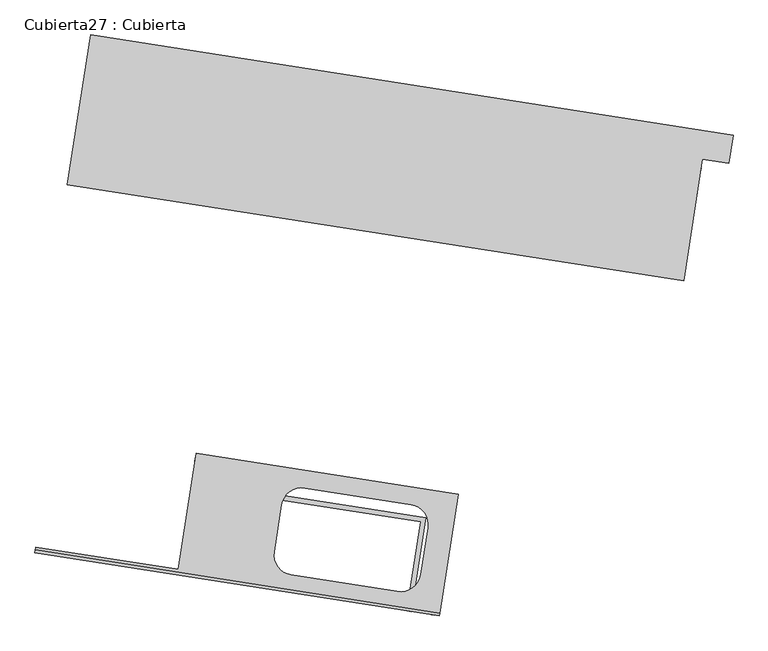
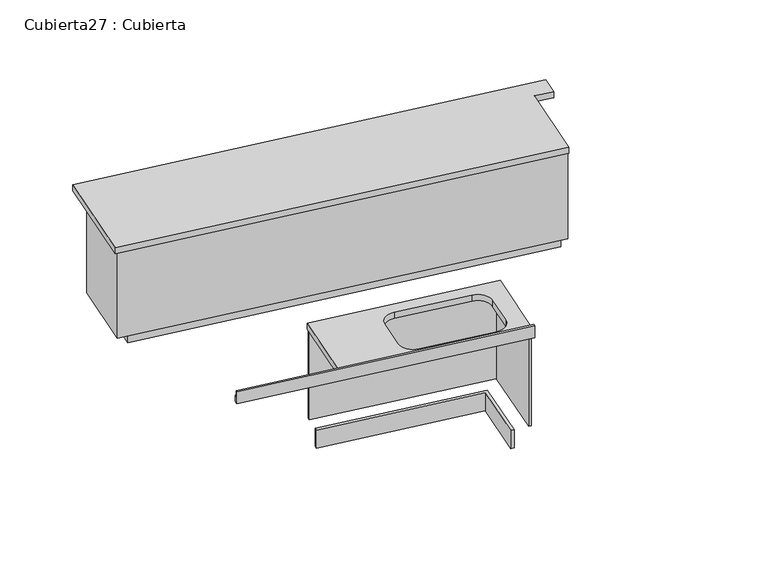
"""IFC4 building model written with IfcOpenShell, lengths in millimetres: furniture geometry, Cubierta27 : Cubierta."""

import ifcopenshell
import ifcopenshell.guid

model = None  # the IFC model being written
_history = None  # IfcOwnerHistory: only IFC2X3 demands one
_inside = {}  # id of a spatial element -> (the spatial element, [elements in it])
_under = {}  # id of a project, library or spatial element -> (it, [spatial elements below it])
_declared = {}  # id of a project -> (the project, [libraries it declares])
_typed = {}  # id of a type object -> (the type object, [elements of that type])
_made_of = {}  # id of a material, layer set ... -> (it, [elements and type objects made of it])


def new_model(schema):
    """Start an empty IFC model of exactly this schema.

    Asked for "IFC4X3", IfcOpenShell would pick the latest addendum, in which some entities
    have other attributes; the version numbers below select the first issue.
    IFC2X3 requires an IfcOwnerHistory on every rooted entity: one is made here for all.
    """
    global model, _history
    if schema == "IFC4X3":
        model = ifcopenshell.file(schema_version=(4, 3, 0, 0))
    else:
        model = ifcopenshell.file(schema=schema)
    _inside.clear()
    _under.clear()
    _declared.clear()
    _typed.clear()
    _made_of.clear()
    _history = None
    if model.schema == "IFC2X3":
        org = make("IfcOrganization", Name="unknown")
        user = make(
            "IfcPersonAndOrganization",
            ThePerson=make("IfcPerson", FamilyName="unknown"),
            TheOrganization=org,
        )
        app = make(
            "IfcApplication",
            ApplicationDeveloper=org,
            Version="unknown",
            ApplicationFullName="unknown",
            ApplicationIdentifier="unknown",
        )
        _history = make(
            "IfcOwnerHistory",
            OwningUser=user,
            OwningApplication=app,
            ChangeAction="ADDED",
            CreationDate=0,
        )
    return model


def make(cls, **values):
    """One entity of the class cls with the attributes given. An attribute that is None is left unset."""
    return model.create_entity(
        cls, **{name: value for name, value in values.items() if value is not None}
    )


def rooted(cls, **values):
    """An entity with a GlobalId (a new one), such as an element, a storey or a relation."""
    return make(cls, GlobalId=ifcopenshell.guid.new(), OwnerHistory=_history, **values)


def si_unit(unit_type, name, prefix=None):
    """IfcSIUnit, for example si_unit("LENGTHUNIT", "METRE", prefix="MILLI")."""
    return make("IfcSIUnit", UnitType=unit_type, Prefix=prefix, Name=name)


def assignment(units):
    """IfcUnitAssignment: the units of a project."""
    return None if units is None else make("IfcUnitAssignment", Units=units)


def point(xyz):
    """IfcCartesianPoint."""
    return None if xyz is None else make("IfcCartesianPoint", Coordinates=xyz)


def direction(xyz):
    """IfcDirection."""
    return None if xyz is None else make("IfcDirection", DirectionRatios=xyz)


def frame(location, z_axis=None, x_axis=None):
    """IfcAxis2Placement3D, a coordinate frame: its origin and axes. An axis left out is left unset."""
    return make(
        "IfcAxis2Placement3D",
        Location=point(location),
        Axis=direction(z_axis),
        RefDirection=direction(x_axis),
    )


def origin():
    """The frame at (0, 0, 0) with its axes left unset."""
    return frame((0.0, 0.0, 0.0))


def place(relative_to, where):
    """IfcLocalPlacement: puts the frame where relative to a parent placement (None: the world)."""
    return make(
        "IfcLocalPlacement", PlacementRelTo=relative_to, RelativePlacement=where
    )


def context(
    kind, dimensions, precision=None, world=None, true_north=None, identifier=None
):
    """IfcGeometricRepresentationContext, for example the 3D "Model" context."""
    return make(
        "IfcGeometricRepresentationContext",
        ContextIdentifier=identifier,
        ContextType=kind,
        CoordinateSpaceDimension=dimensions,
        Precision=precision,
        WorldCoordinateSystem=world,
        TrueNorth=true_north,
    )


def project(units=None, contexts=None):
    """IfcProject with its units and contexts."""
    return rooted(
        "IfcProject",
        Name="project",
        RepresentationContexts=contexts,
        UnitsInContext=assignment(units),
    )


def spatial(cls, under=None, at=None, **own):
    """A site, building, storey or space (cls), placed at a placement, below another one or the project."""
    s = rooted(cls, ObjectPlacement=at, **own)
    if under is not None:
        _under.setdefault(under.id(), (under, []))[1].append(s)
    return s


def polyline(points):
    """IfcPolyline through the points."""
    return make("IfcPolyline", Points=[point(p) for p in points])


def circle_curve(where, radius):
    """IfcCircle in the frame where."""
    return make("IfcCircle", Position=where, Radius=radius)


def outline(outer, holes=None, kind="AREA"):
    """IfcArbitraryClosedProfileDef: a profile drawn as a closed curve; with holes, ...WithVoids."""
    if holes is None:
        return make("IfcArbitraryClosedProfileDef", ProfileType=kind, OuterCurve=outer)
    return make(
        "IfcArbitraryProfileDefWithVoids",
        ProfileType=kind,
        OuterCurve=outer,
        InnerCurves=holes,
    )


def extrude(swept, where, along, depth):
    """IfcExtrudedAreaSolid: the profile swept, set in the frame where, extruded along a direction by depth."""
    return make(
        "IfcExtrudedAreaSolid",
        SweptArea=swept,
        Position=where,
        ExtrudedDirection=direction(along),
        Depth=depth,
    )


def faces_of(points, faces, orient=None, outer=None):
    """IfcFace entities. A face is a list of loops; a loop is a list of indices into points, from 0.

    orient and outer hold one flag for each loop. By default every Orientation is true, the
    first loop of a face is its IfcFaceOuterBound and the others are IfcFaceBound.
    """
    made = []
    for i, loops in enumerate(faces):
        bounds = []
        for j, loop in enumerate(loops):
            is_outer = j == 0 if outer is None else outer[i][j]
            bounds.append(
                make(
                    "IfcFaceOuterBound" if is_outer else "IfcFaceBound",
                    Bound=make("IfcPolyLoop", Polygon=[points[k] for k in loop]),
                    Orientation=True if orient is None else orient[i][j],
                )
            )
        made.append(make("IfcFace", Bounds=bounds))
    return made


def faceted_brep(points, faces, orient=None, outer=None, voids=None):
    """IfcFacetedBrep: a solid bounded by flat faces; with voids (closed shells), ...WithVoids."""
    shared = [point(p) for p in points]
    hull = make("IfcClosedShell", CfsFaces=faces_of(shared, faces, orient, outer))
    if voids is None:
        return make("IfcFacetedBrep", Outer=hull)
    return make(
        "IfcFacetedBrepWithVoids",
        Outer=hull,
        Voids=[
            make(cls, CfsFaces=faces_of(shared, fs, o, b)) for cls, fs, o, b in voids
        ],
    )


def shape(context_of_items, identifier, shape_type, items):
    """IfcShapeRepresentation: the items that make up one representation, for example the "Body"."""
    return make(
        "IfcShapeRepresentation",
        ContextOfItems=context_of_items,
        RepresentationIdentifier=identifier,
        RepresentationType=shape_type,
        Items=items,
    )


def source(mapping_origin, context_of_items, identifier, shape_type, items):
    """IfcRepresentationMap: a shape defined once, which mapped items show again and again."""
    return make(
        "IfcRepresentationMap",
        MappingOrigin=mapping_origin,
        MappedRepresentation=shape(context_of_items, identifier, shape_type, items),
    )


def transform(
    local_origin,
    x_axis=None,
    y_axis=None,
    z_axis=None,
    scale=None,
    scale2=None,
    scale3=None,
    uniform=True,
):
    """IfcCartesianTransformationOperator3D, or its non-uniform kind. x_axis, y_axis, z_axis: its Axis1, 2, 3."""
    if uniform:
        return make(
            "IfcCartesianTransformationOperator3D",
            Axis1=direction(x_axis),
            Axis2=direction(y_axis),
            LocalOrigin=point(local_origin),
            Scale=scale,
            Axis3=direction(z_axis),
        )
    return make(
        "IfcCartesianTransformationOperator3DnonUniform",
        Axis1=direction(x_axis),
        Axis2=direction(y_axis),
        LocalOrigin=point(local_origin),
        Scale=scale,
        Axis3=direction(z_axis),
        Scale2=scale2,
        Scale3=scale3,
    )


def mapped(mapping_source, mapping_target):
    """IfcMappedItem: shows the shape of a source again, moved by a transform."""
    return make(
        "IfcMappedItem", MappingSource=mapping_source, MappingTarget=mapping_target
    )


def made_of(thing, what):
    """Note that an element or type object is made of a material, layer set ...; save() writes the relation."""
    if what is not None:
        _made_of.setdefault(what.id(), (what, []))[1].append(thing)
    return thing


def element(
    cls,
    number,
    at=None,
    inside=None,
    cuts=None,
    type_object=None,
    material=None,
    context=None,
    identifier="Body",
    shape_type=None,
    held_by="IfcProductDefinitionShape",
    body=None,
    shapes=None,
    **own,
):
    """One element of the class cls, such as IfcWall. Its Tag is "e" and its number.

    at: its placement. inside: the storey or other place that contains it. cuts: it is an
    opening in that element (IfcRelVoidsElement). A single representation is given by context,
    identifier, shape_type and body (its items); several are given by shapes. held_by: the class
    of the entity that holds the representations. save() writes the other relations.
    """
    e = rooted(cls, Tag="e%d" % number, ObjectPlacement=at, **own)
    if body is not None:
        shapes = [shape(context, identifier, shape_type, body)]
    if shapes is not None:
        e.Representation = make(held_by, Representations=shapes)
    if inside is not None:
        _inside.setdefault(inside.id(), (inside, []))[1].append(e)
    if cuts is not None:
        rooted(
            "IfcRelVoidsElement", RelatingBuildingElement=cuts, RelatedOpeningElement=e
        )
    if type_object is not None:
        _typed.setdefault(type_object.id(), (type_object, []))[1].append(e)
    return made_of(e, material)


def aggregate(whole, parts):
    """IfcRelAggregates: a whole, such as a stair, and the parts it consists of."""
    return rooted("IfcRelAggregates", RelatingObject=whole, RelatedObjects=parts)


def save(model, path):
    """Write the relations noted so far, then the file.

    IfcRelAggregates (storeys below a building ...), IfcRelContainedInSpatialStructure (elements
    in a storey), IfcRelDefinesByType, IfcRelAssociatesMaterial and IfcRelDeclares: one each for
    every whole, place, type object, material and project.
    """
    for whole, parts in _under.values():
        aggregate(whole, parts)
    for where, things in _inside.values():
        rooted(
            "IfcRelContainedInSpatialStructure",
            RelatedElements=things,
            RelatingStructure=where,
        )
    for kind, things in _typed.values():
        rooted("IfcRelDefinesByType", RelatedObjects=things, RelatingType=kind)
    for what, things in _made_of.values():
        rooted("IfcRelAssociatesMaterial", RelatedObjects=things, RelatingMaterial=what)
    for by, libraries in _declared.values():
        rooted("IfcRelDeclares", RelatingContext=by, RelatedDefinitions=libraries)
    model.write(path)


def plane_surface(at):
    """IfcPlane: the flat surface through the origin of the frame at, square to its z axis."""
    return make("IfcPlane", Position=at)


def revolved_surface(curve, axis_point, axis_direction):
    """IfcSurfaceOfRevolution: the curve turned about the line through axis_point along axis_direction."""
    return make(
        "IfcSurfaceOfRevolution",
        SweptCurve=make("IfcArbitraryOpenProfileDef", ProfileType="CURVE", Curve=curve),
        AxisPosition=make("IfcAxis1Placement", Location=point(axis_point), Axis=direction(axis_direction)),
    )


def advanced_brep(points, edges, surfaces, faces):
    """IfcAdvancedBrep: a solid bounded by faces that lie on surfaces and meet in shared edges.

    An edge is (start, end): straight between two places in points (the first is 0);
    or (start, end, curve); or (start, end, curve, False) where it runs against its curve.
    A face is (place in surfaces, loops), or (place, loops, False) where it looks against
    its surface's normal. A loop lists edges by number (the first is 1), with a minus sign
    where the edge is run from its end to its start. The first loop is the outer one.
    """
    corners = [point(p) for p in points]
    vertices = [make("IfcVertexPoint", VertexGeometry=c) for c in corners]
    made = []
    for start, end, *more in edges:
        made.append(
            make(
                "IfcEdgeCurve",
                EdgeStart=vertices[start],
                EdgeEnd=vertices[end],
                EdgeGeometry=more[0] if more else make("IfcPolyline", Points=[corners[start], corners[end]]),
                SameSense=more[1] if len(more) > 1 else True,
            )
        )
    hull = []
    for where, loops, *sense in faces:
        bounds = []
        for j, loop in enumerate(loops):
            ring = [make("IfcOrientedEdge", EdgeElement=made[abs(k) - 1], Orientation=k > 0) for k in loop]
            bounds.append(
                make(
                    "IfcFaceOuterBound" if j == 0 else "IfcFaceBound",
                    Bound=make("IfcEdgeLoop", EdgeList=ring),
                    Orientation=True,
                )
            )
        hull.append(make("IfcAdvancedFace", Bounds=bounds, FaceSurface=surfaces[where], SameSense=sense[0] if sense else True))
    return make("IfcAdvancedBrep", Outer=make("IfcClosedShell", CfsFaces=hull))


def cubierta27_cubierta_ddeecbb5(model_context):
    return source(origin(), model_context, "Body", "SolidModel", [
        extrude(outline(polyline([(-27072.9789402, -75732.636984), (-30175.5165872, -75249.0459597), (-30125.4633754, -74927.9234283), (-27022.9257284, -75411.5144523), (-27026.7759754, -75436.216185), (-30104.6118897, -74956.475408), (-30146.9646075, -75228.194474), (-27069.1286932, -75707.9352513), (-27072.9789402, -75732.636984)])), frame((0.0, 0.0, 12800.0), z_axis=(0.0, 0.0, 1.0), x_axis=(1.0, 0.0, 0.0)), (0.0, 0.0, 1.0), 150.0),
        extrude(outline(polyline([(-27089.1499775, -75836.384261), (-27092.2301751, -75856.1456471), (-30318.2764855, -75353.3033883), (-30229.720804, -74785.1635299), (-27003.6744935, -75288.0057892), (-27006.7546911, -75307.7671753), (-30213.0396154, -74808.0051137), (-30295.4349018, -75336.6221997), (-27089.1499775, -75836.384261)])), frame((0.0, 0.0, 12950.0), z_axis=(0.0, 0.0, 1.0), x_axis=(1.0, 0.0, 0.0)), (0.0, 0.0, 1.0), 720.0),
        extrude(outline(polyline([(-29689.9910579, -76938.9838236), (-28454.9044028, -77131.4961759), (-28531.9093424, -77625.5308298), (-28556.6110751, -77621.6805828), (-28483.4563824, -77152.3476616), (-29693.8413049, -76963.6855563), (-29689.9910579, -76938.9838236)])), frame((0.0, 0.0, 12800.0), z_axis=(0.0, 0.0, 1.0), x_axis=(1.0, 0.0, 0.0)), (0.0, 0.0, 1.0), 150.0),
        extrude(outline(polyline([(-29670.739823, -76815.4751601), (-28312.1445044, -77027.2387473), (-28408.4006789, -77644.7820647), (-28428.1620651, -77641.7018671), (-28334.9860881, -77043.9199359), (-29673.8200206, -76835.2365462), (-29670.739823, -76815.4751601)])), frame((0.0, 0.0, 12950.0), z_axis=(0.0, 0.0, 1.0), x_axis=(1.0, 0.0, 0.0)), (0.0, 0.0, 1.0), 720.0),
        advanced_brep(
        [(-28283.5925247, -77006.3872616, 13720.0), (-29666.889576, -76790.7734274, 13720.0), (-29762.3757012, -77403.3763983, 13720.0), (-30513.3083752, -77286.32889, 13720.0), (-30515.6185233, -77301.1499296, 13720.0), (-28381.388798, -77633.811272, 13720.0), (-28445.6934858, -77183.5356146, 13720.0), (-28484.1959556, -77430.5529415, 13720.0), (-28606.3984287, -77519.7973004, 13720.0), (-29164.6575876, -77432.7817186, 13720.0), (-29253.9019464, -77310.5792456, 13720.0), (-29215.3994766, -77063.5619186, 13720.0), (-29093.1970036, -76974.3175598, 13720.0), (-28534.9378447, -77061.3331416, 13720.0), (-30517.9286715, -77315.9709693, 13670.0), (-30513.3083752, -77286.32889, 13670.0), (-29762.3757012, -77403.3763983, 13670.0), (-29666.889576, -76790.7734274, 13670.0), (-28283.5925247, -77006.3872616, 13670.0), (-28383.6989462, -77648.6323117, 13670.0), (-28445.6934858, -77183.5356146, 13670.0), (-28534.9378447, -77061.3331416, 13670.0), (-29093.1970036, -76974.3175598, 13670.0), (-29215.3994766, -77063.5619186, 13670.0), (-29253.9019464, -77310.5792456, 13670.0), (-29164.6575876, -77432.7817186, 13670.0), (-28606.3984287, -77519.7973004, 13670.0), (-28484.1959556, -77430.5529415, 13670.0), (-30517.9286715, -77315.9709692, 13770.0), (-30515.6185233, -77301.1499296, 13770.0), (-28383.6989462, -77648.6323116, 13770.0), (-28381.388798, -77633.811272, 13770.0)],
        [
            (0, 1),
            (1, 2),
            (2, 3),
            (3, 4),
            (4, 5),
            (5, 0),
            (6, 7),
            (7, 8, circle_curve(frame((-28589.9193716, -77414.0738845, 13720.0), z_axis=(0.0, 0.0, -1.0), x_axis=(-0.9880693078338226, 0.1540098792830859, 0.0)), 107.0)),
            (8, 9),
            (9, 10, circle_curve(frame((-29148.1785305, -77327.0583027, 13720.0), z_axis=(0.0, 0.0, -1.0), x_axis=(-0.9880693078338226, 0.1540098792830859, 0.0)), 107.0)),
            (10, 11),
            (11, 12, circle_curve(frame((-29109.6760607, -77080.0409757, 13720.0), z_axis=(0.0, 0.0, -1.0), x_axis=(-0.9880693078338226, 0.1540098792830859, 0.0)), 107.0)),
            (12, 13),
            (13, 6, circle_curve(frame((-28551.4169018, -77167.0565575, 13720.0), z_axis=(0.0, 0.0, -1.0), x_axis=(-0.9880693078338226, 0.1540098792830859, 0.0)), 107.0)),
            (14, 15),
            (15, 16),
            (16, 17),
            (17, 18),
            (18, 19),
            (19, 14),
            (20, 21, circle_curve(frame((-28551.4169018, -77167.0565575, 13670.0), z_axis=(0.0, 0.0, 1.0), x_axis=(-0.9880693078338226, 0.1540098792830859, 0.0)), 107.0)),
            (21, 22),
            (22, 23, circle_curve(frame((-29109.6760607, -77080.0409757, 13670.0), z_axis=(0.0, 0.0, 1.0), x_axis=(-0.9880693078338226, 0.1540098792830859, 0.0)), 107.0)),
            (23, 24),
            (24, 25, circle_curve(frame((-29148.1785305, -77327.0583027, 13670.0), z_axis=(0.0, 0.0, 1.0), x_axis=(-0.9880693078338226, 0.1540098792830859, 0.0)), 107.0)),
            (25, 26),
            (26, 27, circle_curve(frame((-28589.9193716, -77414.0738845, 13670.0), z_axis=(0.0, 0.0, 1.0), x_axis=(-0.9880693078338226, 0.1540098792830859, 0.0)), 107.0)),
            (27, 20),
            (28, 29),
            (29, 4),
            (3, 15),
            (14, 28),
            (28, 30),
            (30, 31),
            (31, 29),
            (31, 5),
            (19, 30),
            (18, 0),
            (6, 20),
            (27, 7),
            (26, 8),
            (25, 9),
            (24, 10),
            (23, 11),
            (22, 12),
            (21, 13),
            (17, 1),
            (16, 2),
        ],
        [
            plane_surface(frame((-25869.5749896, -75414.1735923, 13720.0), z_axis=(0.0, 0.0, 1.0), x_axis=(0.988069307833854, -0.15400987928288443, 0.0))),
            plane_surface(frame((-25869.5749896, -75414.1735923, 13670.0), z_axis=(0.0, 0.0, -1.0), x_axis=(-0.988069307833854, 0.15400987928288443, 0.0))),
            plane_surface(frame((-30517.9286715, -77315.9709692, 12820.0), z_axis=(-0.9880693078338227, 0.15400987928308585, 0.0), x_axis=(0.0, 0.0, 1.0))),
            plane_surface(frame((-30517.9286715, -77315.9709692, 13770.0), z_axis=(0.0, 0.0, 1.0000000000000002), x_axis=(0.9880693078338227, -0.1540098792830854, 0.0))),
            plane_surface(frame((-30515.6185233, -77301.1499296, 13770.0), z_axis=(0.1540098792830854, 0.9880693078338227, 0.0), x_axis=(0.9880693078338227, -0.1540098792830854, 0.0))),
            plane_surface(frame((-30517.9286715, -77315.9709692, 13720.0), z_axis=(-0.1540098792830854, -0.9880693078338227, 0.0), x_axis=(0.9880693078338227, -0.1540098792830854, 0.0))),
            plane_surface(frame((-28383.6989462, -77648.6323116, 12820.0), z_axis=(0.9880693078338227, -0.15400987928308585, 0.0), x_axis=(0.0, 0.0, 1.0))),
            plane_surface(frame((-28445.6934858, -77183.5356146, 13720.0), z_axis=(-0.9880693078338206, 0.15400987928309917, 0.0), x_axis=(0.0, 0.0, -1.0))),
            revolved_surface(polyline([(-28695.64278753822, -77397.59482741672, 13670.0), (-28695.64278753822, -77397.59482741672, 13720.0)]), (-28589.9193716, -77414.0738845, 12820.0), (0.0, 0.0, -1.0)),
            plane_surface(frame((-28606.3984287, -77519.7973004, 13720.0), z_axis=(0.15400987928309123, 0.9880693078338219, 0.0), x_axis=(0.0, 0.0, -1.0))),
            revolved_surface(polyline([(-29253.90194643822, -77310.57924561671, 13670.0), (-29253.90194643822, -77310.57924561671, 13720.0)]), (-29148.1785305, -77327.0583027, 12820.0), (0.0, 0.0, -1.0)),
            plane_surface(frame((-29253.9019464, -77310.5792456, 13720.0), z_axis=(0.9880693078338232, -0.15400987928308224, 0.0), x_axis=(0.0, 0.0, -1.0))),
            revolved_surface(polyline([(-29215.39947663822, -77063.56191861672, 13670.0), (-29215.39947663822, -77063.56191861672, 13720.0)]), (-29109.6760607, -77080.0409757, 12820.0), (0.0, 0.0, -1.0)),
            plane_surface(frame((-29093.1970036, -76974.3175598, 13720.0), z_axis=(-0.15400987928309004, -0.988069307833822, 0.0), x_axis=(0.0, 0.0, -1.0))),
            revolved_surface(polyline([(-28657.14031773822, -77150.57750041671, 13670.0), (-28657.14031773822, -77150.57750041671, 13720.0)]), (-28551.4169018, -77167.0565575, 12820.0), (0.0, 0.0, -1.0)),
            plane_surface(frame((-28283.5925247, -77006.3872616, 13720.0), z_axis=(0.15400987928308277, 0.9880693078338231, 0.0), x_axis=(0.0, 0.0, -1.0))),
            plane_surface(frame((-29666.889576, -76790.7734274, 13720.0), z_axis=(-0.9880693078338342, 0.15400987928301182, 0.0), x_axis=(0.0, 0.0, -1.0))),
            plane_surface(frame((-29762.3757012, -77403.3763983, 13720.0), z_axis=(0.15400987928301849, 0.9880693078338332, 0.0), x_axis=(0.0, 0.0, -1.0))),
        ],
        [
            (0, [[1, 2, 3, 4, 5, 6], [7, 8, 9, 10, 11, 12, 13, 14]]),
            (1, [[15, 16, 17, 18, 19, 20], [21, 22, 23, 24, 25, 26, 27, 28]]),
            (2, [[29, 30, -4, 31, -15, 32]]),
            (3, [[-29, 33, 34, 35]]),
            (4, [[-30, -35, 36, -5]]),
            (5, [[-32, -20, 37, -33]]),
            (6, [[-34, -37, -19, 38, -6, -36]]),
            (7, [[-7, 39, -28, 40]]),
            (8, [[-8, -40, -27, 41]]),
            (9, [[-9, -41, -26, 42]]),
            (10, [[-10, -42, -25, 43]]),
            (11, [[-11, -43, -24, 44]]),
            (12, [[-12, -44, -23, 45]]),
            (13, [[-13, -45, -22, 46]]),
            (14, [[-14, -46, -21, -39]]),
            (15, [[-1, -38, -18, 47]]),
            (16, [[-2, -47, -17, 48]]),
            (17, [[-3, -48, -16, -31]]),
        ],
    ),
        faceted_brep([(-26995.9740005, -75238.6023299, 13720.0), (-26857.6442974, -75260.163713, 13720.0), (-26834.5428156, -75111.9533168, 13720.0), (-30223.6205618, -74583.6994277, 13720.0), (-30346.8284652, -75374.154874, 13720.0), (-27096.0804221, -75880.84738, 13720.0), (-26995.9740005, -75238.6023299, 13670.0), (-27096.0804221, -75880.84738, 13670.0), (-30346.8284652, -75374.154874, 13670.0), (-30223.6205618, -74583.6994277, 13670.0), (-26834.5428156, -75111.9533168, 13670.0), (-26857.6442974, -75260.163713, 13670.0)], [[[0, 1, 2, 3, 4, 5]], [[6, 7, 8, 9, 10, 11]], [[3, 2, 10, 9]], [[5, 4, 8, 7]], [[0, 5, 7, 6]], [[4, 3, 9, 8]], [[1, 0, 6, 11]], [[2, 1, 11, 10]]]),
    ])


if __name__ == "__main__":
    model = new_model("IFC4")
    model_context = context("Model", 3, world=origin())
    ifc_project = project(units=[si_unit("LENGTHUNIT", "METRE", prefix="MILLI")], contexts=[model_context])
    site = spatial("IfcSite", under=ifc_project)
    building = spatial("IfcBuilding", under=site)
    placement = place(None, origin())
    cubierta27_cubierta_shape = cubierta27_cubierta_ddeecbb5(model_context)
    element("IfcFurniture", 1, ObjectType="Cubierta27 : Cubierta", at=placement, inside=building, context=model_context, shape_type="MappedRepresentation", body=[
        mapped(cubierta27_cubierta_shape, transform((0.0, 0.0, 0.0), x_axis=(1.0, 0.0, 0.0), y_axis=(0.0, 1.0, 0.0), z_axis=(0.0, 0.0, 1.0))),
    ])
    save(model, "model.ifc")
